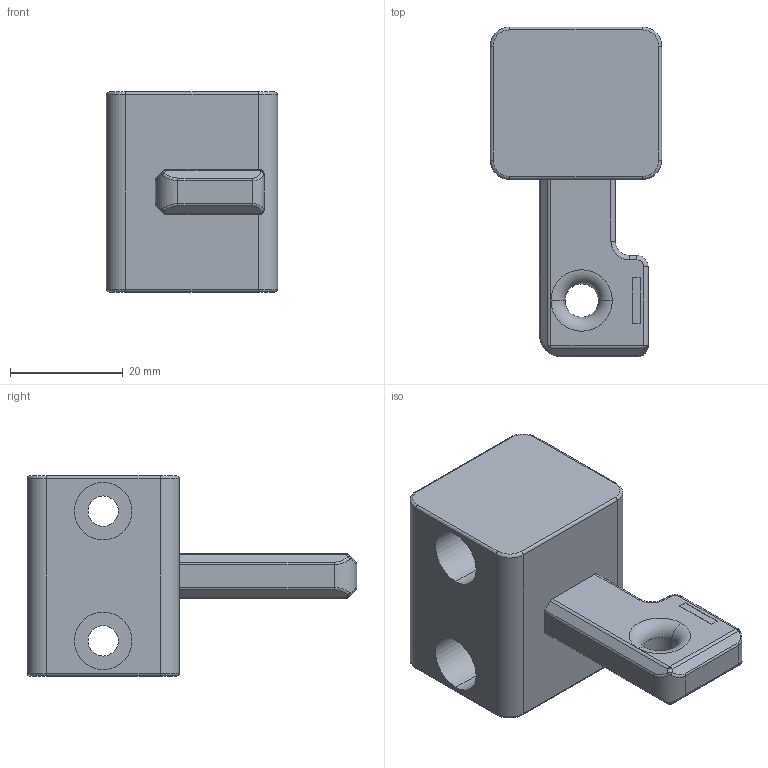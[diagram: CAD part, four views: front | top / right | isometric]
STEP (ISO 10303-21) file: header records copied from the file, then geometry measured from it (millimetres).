
FILE_DESCRIPTION((''),'2;1');
FILE_NAME('2032350','2022-07-19T14:52:39',('j.rink'),(''),'CREO PARAMETRIC BY PTC INC, 2019292','CREO PARAMETRIC BY PTC INC, 2019292','');
FILE_SCHEMA(('AUTOMOTIVE_DESIGN { 1 0 10303 214 1 1 1 1 }'));
Length unit declared in the file: millimetre
Products named in the file (1): 2032350
Bounding box: 30.4 x 58.5 x 35.5 mm (x, y, z)
Volume: 29401.7 mm3; surface area: 8386.4 mm2
Topology: 1 solids, 1 shells, 111 faces, 257 edges, 160 vertices
Faces by surface type: cylinder 46, plane 31, torus 18, bspline 14, sphere 2
Entity records: 4697 total; most frequent: CARTESIAN_POINT 1193, DIRECTION 537, ORIENTED_EDGE 504, PRESENTATION_STYLE_ASSIGNMENT 259, STYLED_ITEM 259, CURVE_STYLE 258, EDGE_CURVE 252, AXIS2_PLACEMENT_3D 212
